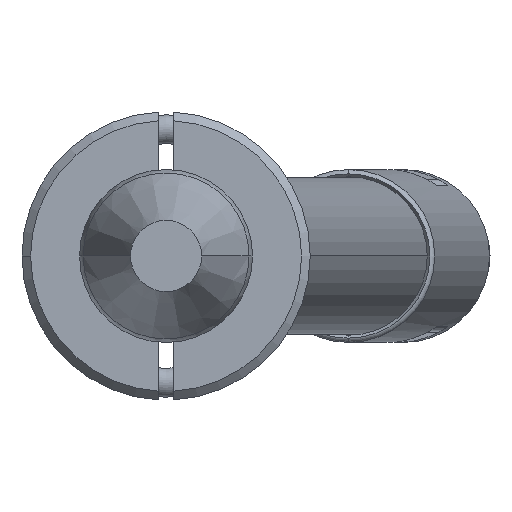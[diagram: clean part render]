
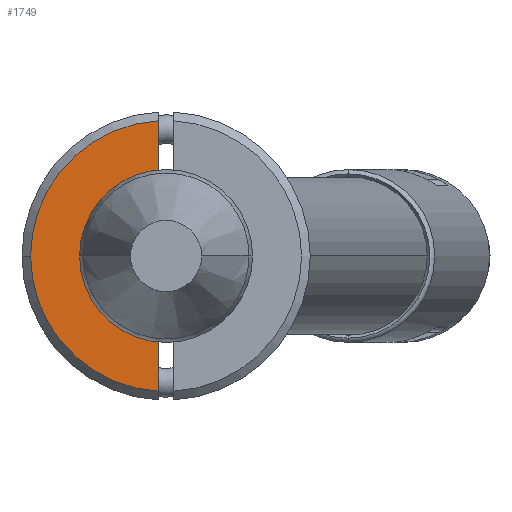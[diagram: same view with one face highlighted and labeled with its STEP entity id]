
A CAD part, front view. The second image highlights one B-rep face of the part: STEP entity #1749.
In plain terms, the highlighted planar face has unit normal (0, -1, 0).
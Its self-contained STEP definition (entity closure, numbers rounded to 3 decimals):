
#27 = CARTESIAN_POINT ( 'NONE',  ( 0., -6., 0. ) ) ;
#47 = CARTESIAN_POINT ( 'NONE',  ( -4.693, -6., 0.25 ) ) ;
#235 = CIRCLE ( 'NONE', #360, 4.7 ) ;
#313 = VERTEX_POINT ( 'NONE', #2057 ) ;
#342 = DIRECTION ( 'NONE',  ( -1., 0., 0. ) ) ;
#360 = AXIS2_PLACEMENT_3D ( 'NONE', #3463, #814, #3447 ) ;
#427 = VERTEX_POINT ( 'NONE', #47 ) ;
#496 = EDGE_CURVE ( 'NONE', #2988, #3461, #235, .T. ) ;
#529 = DIRECTION ( 'NONE',  ( 0., -1., 0. ) ) ;
#587 = DIRECTION ( 'NONE',  ( 0., 1., 0. ) ) ;
#613 = CIRCLE ( 'NONE', #1134, 2.45 ) ;
#644 = DIRECTION ( 'NONE',  ( 0., 0., -1. ) ) ;
#716 = ORIENTED_EDGE ( 'NONE', *, *, #3663, .F. ) ;
#737 = PLANE ( 'NONE',  #1878 ) ;
#814 = DIRECTION ( 'NONE',  ( 0., -1., 0. ) ) ;
#863 = CARTESIAN_POINT ( 'NONE',  ( 0., -6., 4.7 ) ) ;
#1134 = AXIS2_PLACEMENT_3D ( 'NONE', #2469, #587, #3281 ) ;
#1152 = VECTOR ( 'NONE', #342, 1000. ) ;
#1220 = ORIENTED_EDGE ( 'NONE', *, *, #496, .T. ) ;
#1327 = CARTESIAN_POINT ( 'NONE',  ( -5., -6., 0.25 ) ) ;
#1660 = LINE ( 'NONE', #1327, #2355 ) ;
#1669 = EDGE_CURVE ( 'NONE', #313, #427, #1660, .T. ) ;
#1721 = VERTEX_POINT ( 'NONE', #2222 ) ;
#1749 = ADVANCED_FACE ( 'NONE', ( #3385 ), #737, .T. ) ;
#1864 = DIRECTION ( 'NONE',  ( 0., -1., 0. ) ) ;
#1878 = AXIS2_PLACEMENT_3D ( 'NONE', #1932, #529, #2322 ) ;
#1932 = CARTESIAN_POINT ( 'NONE',  ( -5., -6., 0. ) ) ;
#1941 = ORIENTED_EDGE ( 'NONE', *, *, #3617, .T. ) ;
#2057 = CARTESIAN_POINT ( 'NONE',  ( -2.437, -6., 0.25 ) ) ;
#2077 = EDGE_LOOP ( 'NONE', ( #716, #1220, #1941, #3804, #2714 ) ) ;
#2079 = LINE ( 'NONE', #2112, #1152 ) ;
#2112 = CARTESIAN_POINT ( 'NONE',  ( -5., -6., 0.25 ) ) ;
#2185 = DIRECTION ( 'NONE',  ( -1., 0., 0. ) ) ;
#2222 = CARTESIAN_POINT ( 'NONE',  ( 2.437, -6., 0.25 ) ) ;
#2236 = CARTESIAN_POINT ( 'NONE',  ( 4.693, -6., 0.25 ) ) ;
#2322 = DIRECTION ( 'NONE',  ( 0., 0., -1. ) ) ;
#2355 = VECTOR ( 'NONE', #2185, 1000. ) ;
#2469 = CARTESIAN_POINT ( 'NONE',  ( 0., -6., 0. ) ) ;
#2714 = ORIENTED_EDGE ( 'NONE', *, *, #3209, .T. ) ;
#2988 = VERTEX_POINT ( 'NONE', #2236 ) ;
#3209 = EDGE_CURVE ( 'NONE', #313, #1721, #613, .T. ) ;
#3281 = DIRECTION ( 'NONE',  ( 0., 0., -1. ) ) ;
#3361 = AXIS2_PLACEMENT_3D ( 'NONE', #27, #1864, #644 ) ;
#3385 = FACE_OUTER_BOUND ( 'NONE', #2077, .T. ) ;
#3447 = DIRECTION ( 'NONE',  ( 0., 0., -1. ) ) ;
#3461 = VERTEX_POINT ( 'NONE', #863 ) ;
#3463 = CARTESIAN_POINT ( 'NONE',  ( 0., -6., 0. ) ) ;
#3614 = CIRCLE ( 'NONE', #3361, 4.7 ) ;
#3617 = EDGE_CURVE ( 'NONE', #3461, #427, #3614, .T. ) ;
#3663 = EDGE_CURVE ( 'NONE', #2988, #1721, #2079, .T. ) ;
#3804 = ORIENTED_EDGE ( 'NONE', *, *, #1669, .F. ) ;
